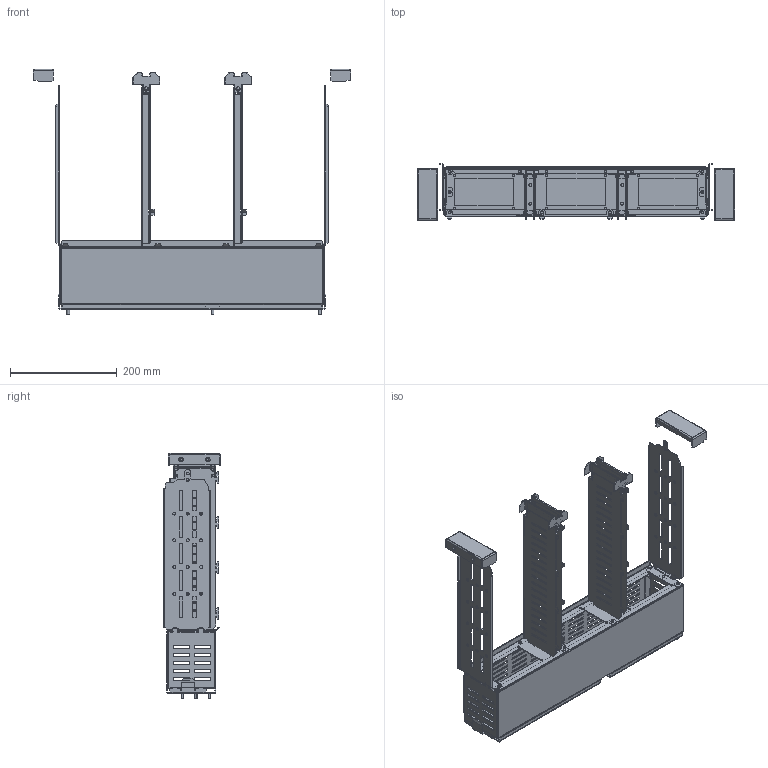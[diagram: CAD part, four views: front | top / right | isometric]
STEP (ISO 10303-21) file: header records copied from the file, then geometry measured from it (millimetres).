
FILE_DESCRIPTION(('CAx-IF Rec.Pracs.---Model Styling and Organization---1.2---2011-12-15','CAx-IF Rec.Pracs.---Geometric and Assembly Validation Properties---4.1---2014-06-16','CAx-IF Rec.Pracs.---PMI Polyline Presentation---2.0---2013-05-24'),'2;1');
FILE_NAME('R5M2W2M3A.stp','2021-05-05T12:09:42+03:00',(''),(''),'STEP Interface 4.4 by CT CoreTechnologie','3D_Evolution4.4 by CT CoreTechnologie','');
FILE_SCHEMA(('AUTOMOTIVE_DESIGN { 1 0 10303 214 1 1 1 1 }'));
Length unit declared in the file: millimetre
Products named in the file (14): R5M2W2M3A; RB.1426.00.00.0_-00; M5x8-DIN7500C_stright; RB.1622.00.00.0_-00; RB.1285.00.00.0_-00; RB.1285.00.00.0_-01; RB.1251.00.00.0_-00 (for assembly); RB.1252.00.00.0_-00; RB.1282.00.00.0_-00; ÒÏÀ.09.0004.00.00.2_¡¥§ § æ¥¯®¢; RB.1421.00.00.0_-00; RB.1599.00.00.0_-00; RB.0908.00.00.0_-00; RB.1246.00.00.0_-00
Assembly tree (46 placements, depth 2):
  R5M2W2M3A
    RB.1426.00.00.0_-00  x4
    M5x8-DIN7500C_stright  x24
    RB.1622.00.00.0_-00
    RB.1285.00.00.0_-00
    RB.1285.00.00.0_-01
    RB.1251.00.00.0_-00 (for assembly)  x2
    RB.1252.00.00.0_-00  x2
    RB.1282.00.00.0_-00  x2
    ÒÏÀ.09.0004.00.00.2_¡¥§ § æ¥¯®¢  x4
    RB.1421.00.00.0_-00
    RB.1599.00.00.0_-00
    RB.0908.00.00.0_-00  x2
    RB.1246.00.00.0_-00
Bounding box: 594 x 106 x 458.6 mm (x, y, z)
Surface area: 904593.7 mm2 (no closed solid volume)
Topology: 0 solids, 48 shells, 2636 faces, 7197 edges, 4625 vertices
Faces by surface type: plane 1816, cylinder 496, bspline 324
Entity records: 55793 total; most frequent: CARTESIAN_POINT 11468, ORIENTED_EDGE 9190, DIRECTION 8393, EDGE_CURVE 4597, VECTOR 3849, LINE 3849, VERTEX_POINT 2991, AXIS2_PLACEMENT_3D 2272
